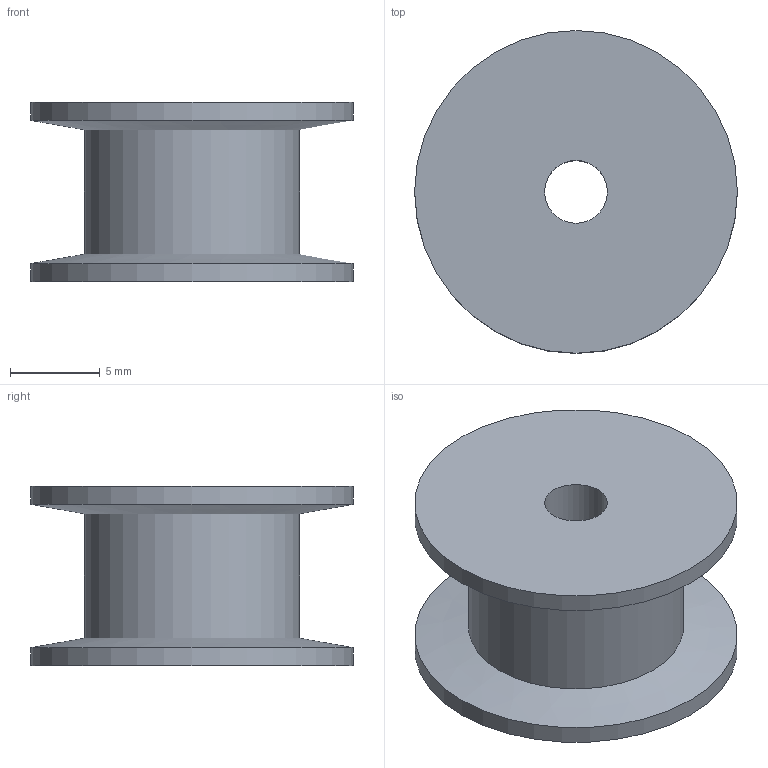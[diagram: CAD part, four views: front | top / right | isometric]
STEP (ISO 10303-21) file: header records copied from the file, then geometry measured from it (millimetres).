
FILE_DESCRIPTION(/* description */ (''),/* implementation_level */ '2;1');
FILE_NAME(/* name */ 'C:/Users/Ulises/Desktop/T1/mecanica_cad/polea_lisa.step',/* time_stamp */ '2020-10-16T01:32:30-03:00',/* author */ (''),/* organization */ (''),/* preprocessor_version */ 'ST-DEVELOPER v18.1',/* originating_system */ 'Autodesk Translation Framework v9.3.0.1241',/* authorisation */ '');
FILE_SCHEMA (('AUTOMOTIVE_DESIGN { 1 0 10303 214 3 1 1 }'));
Length unit declared in the file: millimetre
Products named in the file (1): polea_lisa
Bounding box: 18 x 18 x 10 mm (x, y, z)
Volume: 1387.3 mm3; surface area: 1261.6 mm2
Topology: 1 solids, 1 shells, 8 faces, 14 edges, 8 vertices
Faces by surface type: cylinder 4, cone 2, plane 2
Full cylindrical faces by diameter (mm): 3.5 x1, 12 x1, 18 x2
Entity records: 238 total; most frequent: DIRECTION 40, CARTESIAN_POINT 31, ORIENTED_EDGE 28, AXIS2_PLACEMENT_3D 17, EDGE_CURVE 14, EDGE_LOOP 10, FACE_OUTER_BOUND 8, CIRCLE 8
